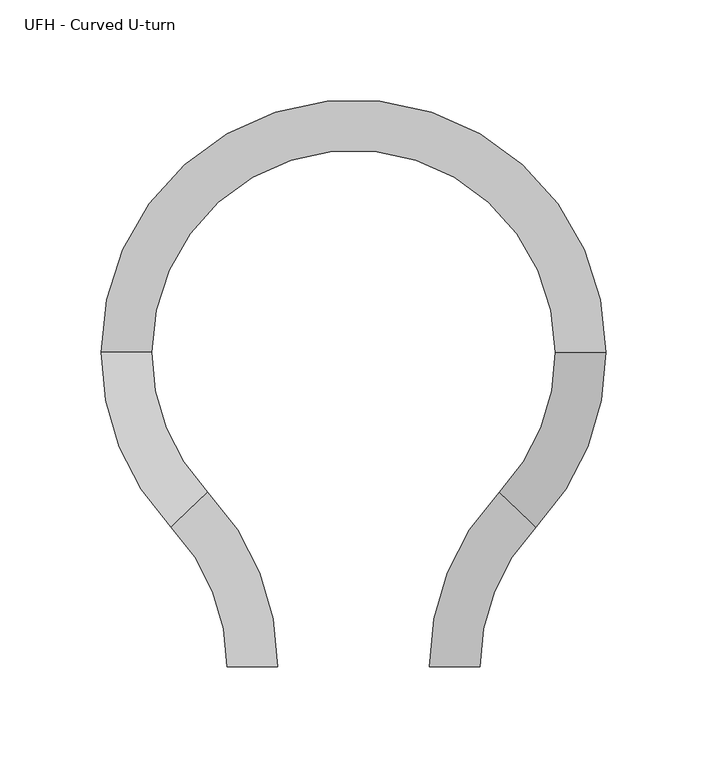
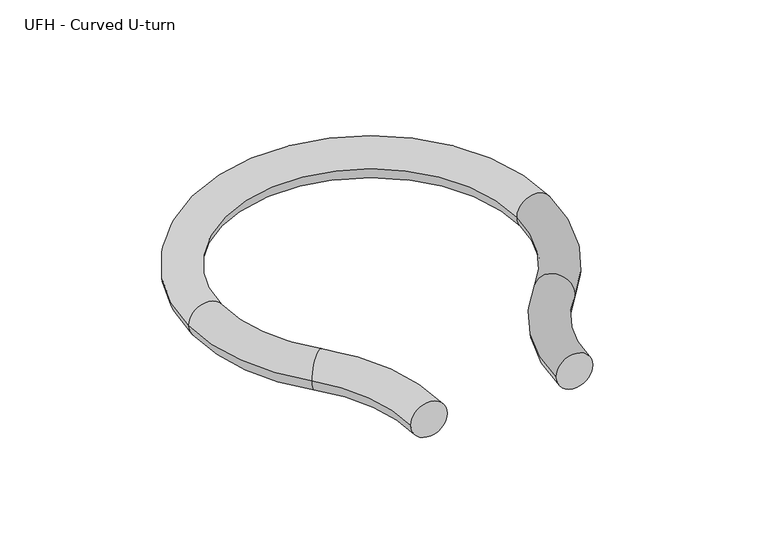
"""IFC4 building model written with IfcOpenShell, lengths in millimetres: pipe fitting geometry, UFH - Curved U-turn : Superpipe 2+ UFH Curved U-turn  - VA100."""

from ifc_helpers import new_model, si_unit, point, frame, origin, place, context, project, spatial, circle_curve, ellipse_curve, trimmed, source, transform, mapped, element, save
from ifc_brep_helpers import plane_surface, revolved_surface, advanced_brep


def ufh_curved_u_turn_96a79023(model_context):
    return source(origin(), model_context, "Body", "AdvancedBrep", [
        advanced_brep(
        [(12.5, 0.0, 0.0), (-12.5, 0.0, 0.0), (-40.2777778, 69.1661089, 0.0), (-22.2222222, 86.4576361, 0.0), (-75.0000001, 155.623745, 0.0), (-50.0000001, 155.623745, 0.0), (174.9999999, 155.623745, 0.0), (149.9999999, 155.623745, 0.0), (140.2777777, 69.1661089, 0.0), (122.2222221, 86.4576361, 0.0), (87.5, 0.0, 0.0), (112.5, 0.0, 0.0)],
        [
            (0, 1, circle_curve(frame((0.0, 0.0, 0.0), z_axis=(0.0, -1.0, 0.0), x_axis=(-1.0, 0.0, 0.0)), 12.5)),
            (1, 0, circle_curve(frame((0.0, 0.0, 0.0), z_axis=(0.0, -1.0, 0.0), x_axis=(-1.0, 0.0, 0.0)), 12.5)),
            (2, 1, circle_curve(frame((-112.5, 0.0, 0.0), z_axis=(0.0, 0.0, -1.0), x_axis=(1.0, 0.0, 0.0)), 100.0)),
            (0, 3, circle_curve(frame((-112.5, 0.0, 0.0), z_axis=(0.0, 0.0, 1.0), x_axis=(1.0, 0.0, 0.0)), 125.0)),
            (3, 2, circle_curve(frame((-31.25, 77.8118725, 0.0), z_axis=(0.6916610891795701, -0.7222222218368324, 0.0), x_axis=(-0.7222222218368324, -0.6916610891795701, 0.0)), 12.5)),
            (2, 3, circle_curve(frame((-31.25, 77.8118725, 0.0), z_axis=(0.6916610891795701, -0.7222222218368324, 0.0), x_axis=(-0.7222222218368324, -0.6916610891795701, 0.0)), 12.5)),
            (4, 2, circle_curve(frame((49.9999999, 155.623745, 0.0), z_axis=(0.0, 0.0, 1.0), x_axis=(-0.7222222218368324, -0.6916610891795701, 0.0)), 125.0)),
            (3, 5, circle_curve(frame((49.9999999, 155.623745, 0.0), z_axis=(0.0, 0.0, -1.0), x_axis=(-0.7222222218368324, -0.6916610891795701, 0.0)), 100.0)),
            (5, 4, circle_curve(frame((-62.5000001, 155.623745, 0.0), z_axis=(0.0, -1.0, 0.0), x_axis=(-1.0, 0.0, 0.0)), 12.5)),
            (4, 5, circle_curve(frame((-62.5000001, 155.623745, 0.0), z_axis=(0.0, -1.0, 0.0), x_axis=(-1.0, 0.0, 0.0)), 12.5)),
            (6, 4, circle_curve(frame((49.9999999, 155.623745, 0.0), z_axis=(0.0, 0.0, 1.0), x_axis=(-1.0, 0.0, 0.0)), 125.0)),
            (5, 7, circle_curve(frame((49.9999999, 155.623745, 0.0), z_axis=(0.0, 0.0, -1.0), x_axis=(-1.0, 0.0, 0.0)), 100.0)),
            (7, 6, circle_curve(frame((162.4999999, 155.623745, 0.0), z_axis=(0.0, 1.0, 0.0), x_axis=(1.0, 0.0, 0.0)), 12.5)),
            (6, 7, circle_curve(frame((162.4999999, 155.623745, 0.0), z_axis=(0.0, 1.0, 0.0), x_axis=(1.0, 0.0, 0.0)), 12.5)),
            (8, 6, circle_curve(frame((49.9999999, 155.623745, 0.0), z_axis=(0.0, 0.0, 1.0), x_axis=(1.0, 0.0, 0.0)), 125.0)),
            (7, 9, circle_curve(frame((49.9999999, 155.623745, 0.0), z_axis=(0.0, 0.0, -1.0), x_axis=(1.0, 0.0, 0.0)), 100.0)),
            (9, 8, circle_curve(frame((131.2499999, 77.8118725, 0.0), z_axis=(0.6916610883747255, 0.7222222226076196, 0.0), x_axis=(0.7222222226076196, -0.6916610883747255, 0.0)), 12.5)),
            (8, 9, circle_curve(frame((131.2499999, 77.8118725, 0.0), z_axis=(0.6916610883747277, 0.7222222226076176, 0.0), x_axis=(0.7222222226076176, -0.6916610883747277, 0.0)), 12.5)),
            (10, 11, circle_curve(frame((100.0, 0.0, 0.0), z_axis=(0.0, -0.9999999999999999, 0.0), x_axis=(0.9999999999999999, 0.0, 0.0)), 12.5)),
            (11, 10, circle_curve(frame((100.0, 0.0, 0.0), z_axis=(0.0, -0.9999999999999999, 0.0), x_axis=(0.9999999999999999, 0.0, 0.0)), 12.5)),
            (11, 8, circle_curve(frame((212.5, 0.0, 0.0), z_axis=(0.0, 0.0, -1.0), x_axis=(-0.7222222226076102, 0.6916610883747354, 0.0)), 100.0)),
            (9, 10, circle_curve(frame((212.5, 0.0, 0.0), z_axis=(0.0, 0.0, 1.0), x_axis=(-0.7222222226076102, 0.6916610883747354, 0.0)), 125.0)),
        ],
        [
            plane_surface(frame((0.0, 0.0, 0.0), z_axis=(0.0, -1.0, 0.0), x_axis=(0.0, 0.0, 1.0))),
            revolved_surface(trimmed(ellipse_curve(frame((0.0, 0.0, 0.0), z_axis=(0.0, -1.0, 0.0), x_axis=(-1.0, 0.0, 0.0)), 12.5, 12.5), [point((12.5, 0.0, 0.0))], [point((-12.5, 0.0, 0.0))], True, "CARTESIAN"), (-112.5, 0.0, 0.0), (0.0, 0.0, 1.0)),
            revolved_surface(trimmed(ellipse_curve(frame((0.0, 0.0, 0.0), z_axis=(0.0, -1.0, 0.0), x_axis=(-1.0, 0.0, 0.0)), 12.5, 12.5), [point((-12.5, 0.0, 0.0))], [point((12.5, 0.0, 0.0))], True, "CARTESIAN"), (-112.5, 0.0, 0.0), (0.0, 0.0, 1.0)),
            revolved_surface(trimmed(ellipse_curve(frame((-31.2500001, 77.8118724, 0.0), z_axis=(0.69166108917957, -0.7222222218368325, 0.0), x_axis=(-0.7222222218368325, -0.69166108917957, 0.0)), 12.5, 12.5), [point((-22.2222223, 86.4576361, 0.0))], [point((-40.2777779, 69.1661088, 0.0))], True, "CARTESIAN"), (49.9999999, 155.623745, 0.0), (0.0, 0.0, -1.0)),
            revolved_surface(trimmed(ellipse_curve(frame((-31.2500001, 77.8118724, 0.0), z_axis=(0.69166108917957, -0.7222222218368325, 0.0), x_axis=(-0.7222222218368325, -0.69166108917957, 0.0)), 12.5, 12.5), [point((-40.2777779, 69.1661088, 0.0))], [point((-22.2222223, 86.4576361, 0.0))], True, "CARTESIAN"), (49.9999999, 155.623745, 0.0), (0.0, 0.0, -1.0)),
            revolved_surface(trimmed(ellipse_curve(frame((-62.5000001, 155.623745, 0.0), z_axis=(0.0, -1.0, 0.0), x_axis=(-1.0, 0.0, 0.0)), 12.5, 12.5), [point((-50.0000001, 155.623745, 0.0))], [point((-75.0000001, 155.623745, 0.0))], True, "CARTESIAN"), (49.9999999, 155.623745, 0.0), (0.0, 0.0, -1.0)),
            revolved_surface(trimmed(ellipse_curve(frame((-62.5000001, 155.623745, 0.0), z_axis=(0.0, -1.0, 0.0), x_axis=(-1.0, 0.0, 0.0)), 12.5, 12.5), [point((-75.0000001, 155.623745, 0.0))], [point((-50.0000001, 155.623745, 0.0))], True, "CARTESIAN"), (49.9999999, 155.623745, 0.0), (0.0, 0.0, -1.0)),
            revolved_surface(trimmed(ellipse_curve(frame((162.4999999, 155.623745, 0.0), z_axis=(0.0, 1.0, 0.0), x_axis=(1.0, 0.0, 0.0)), 12.5, 12.5), [point((149.9999999, 155.623745, 0.0))], [point((174.9999999, 155.623745, 0.0))], True, "CARTESIAN"), (49.9999999, 155.623745, 0.0), (0.0, 0.0, -1.0)),
            revolved_surface(trimmed(ellipse_curve(frame((162.4999999, 155.623745, 0.0), z_axis=(0.0, 1.0, 0.0), x_axis=(1.0, 0.0, 0.0)), 12.5, 12.5), [point((174.9999999, 155.623745, 0.0))], [point((149.9999999, 155.623745, 0.0))], True, "CARTESIAN"), (49.9999999, 155.623745, 0.0), (0.0, 0.0, -1.0)),
            plane_surface(frame((100.0, 0.0, 0.0), z_axis=(0.0, -1.0, 0.0), x_axis=(0.0, 0.0, 1.0))),
            revolved_surface(trimmed(ellipse_curve(frame((131.25, 77.8118724, 0.0), z_axis=(0.6916610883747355, 0.72222222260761, 0.0), x_axis=(0.72222222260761, -0.6916610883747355, 0.0)), 12.5, 12.5), [point((122.2222222, 86.457636, 0.0))], [point((140.2777778, 69.1661088, 0.0))], True, "CARTESIAN"), (212.5, 0.0, 0.0), (0.0, 0.0, 1.0)),
            revolved_surface(trimmed(ellipse_curve(frame((131.25, 77.8118724, 0.0), z_axis=(0.6916610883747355, 0.72222222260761, 0.0), x_axis=(0.72222222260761, -0.6916610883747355, 0.0)), 12.5, 12.5), [point((140.2777778, 69.1661088, 0.0))], [point((122.2222222, 86.457636, 0.0))], True, "CARTESIAN"), (212.5, 0.0, 0.0), (0.0, 0.0, 1.0)),
        ],
        [
            (0, [[1, 2]]),
            (1, [[3, -1, 4, 5]]),
            (2, [[-4, -2, -3, 6]]),
            (3, [[7, -5, 8, 9]]),
            (4, [[-8, -6, -7, 10]]),
            (5, [[11, -9, 12, 13]]),
            (6, [[-12, -10, -11, 14]]),
            (7, [[15, -13, 16, 17]]),
            (8, [[-16, -14, -15, 18]]),
            (9, [[19, 20]]),
            (10, [[21, -17, 22, -20]]),
            (11, [[-22, -18, -21, -19]]),
        ],
    ),
    ])


if __name__ == "__main__":
    model = new_model("IFC4")
    model_context = context("Model", 3, world=origin())
    ifc_project = project(units=[si_unit("LENGTHUNIT", "METRE", prefix="MILLI")], contexts=[model_context])
    site = spatial("IfcSite", under=ifc_project)
    building = spatial("IfcBuilding", under=site)
    placement = place(None, origin())
    ufh_curved_u_turn_shape = ufh_curved_u_turn_96a79023(model_context)
    element("IfcPipeFitting", 1, ObjectType="UFH - Curved U-turn : Superpipe 2+ UFH Curved U-turn  - VA100", at=placement, inside=building, context=model_context, shape_type="MappedRepresentation", body=[
        mapped(ufh_curved_u_turn_shape, transform((0.0, 0.0, 0.0), x_axis=(1.0, 0.0, 0.0), y_axis=(0.0, 1.0, 0.0), z_axis=(0.0, 0.0, 1.0))),
    ])
    save(model, "model.ifc")
